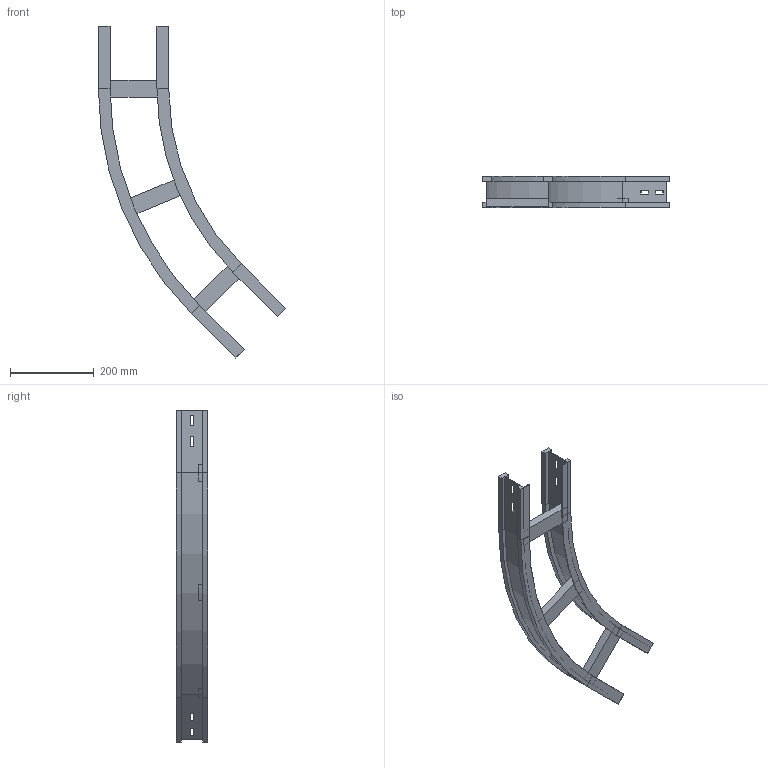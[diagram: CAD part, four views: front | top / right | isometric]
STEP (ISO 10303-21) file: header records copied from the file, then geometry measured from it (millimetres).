
FILE_DESCRIPTION (( 'STEP AP214' ), '1' );
FILE_NAME ('11S6C150.step', '2025-02-21T16:05:58', ( '' ), ( '' ), 'SwSTEP 2.0', 'SolidWorks 2023', '' );
FILE_SCHEMA (( 'AUTOMOTIVE_DESIGN' ));
Length unit declared in the file: millimetre
Products named in the file (4): LONGH.INTERNO 45°_H75_R600; TRAVERSINO_150; LONGH.ESTERNO 45°_H75_R600+150; 11S6C150
Assembly tree (5 placements, depth 2):
  11S6C150
    LONGH.INTERNO 45°_H75_R600
    LONGH.ESTERNO 45°_H75_R600+150
    TRAVERSINO_150  x3
Bounding box: 447.17 x 75 x 792.76 mm (x, y, z)
Volume: 1172616.7 mm3; surface area: 467499 mm2
Topology: 5 solids, 5 shells, 126 faces, 300 edges, 184 vertices
Faces by surface type: plane 114, cylinder 12
Entity records: 3389 total; most frequent: CARTESIAN_POINT 566, ORIENTED_EDGE 552, DIRECTION 544, EDGE_CURVE 276, LINE 252, VECTOR 252, VERTEX_POINT 168, AXIS2_PLACEMENT_3D 146
